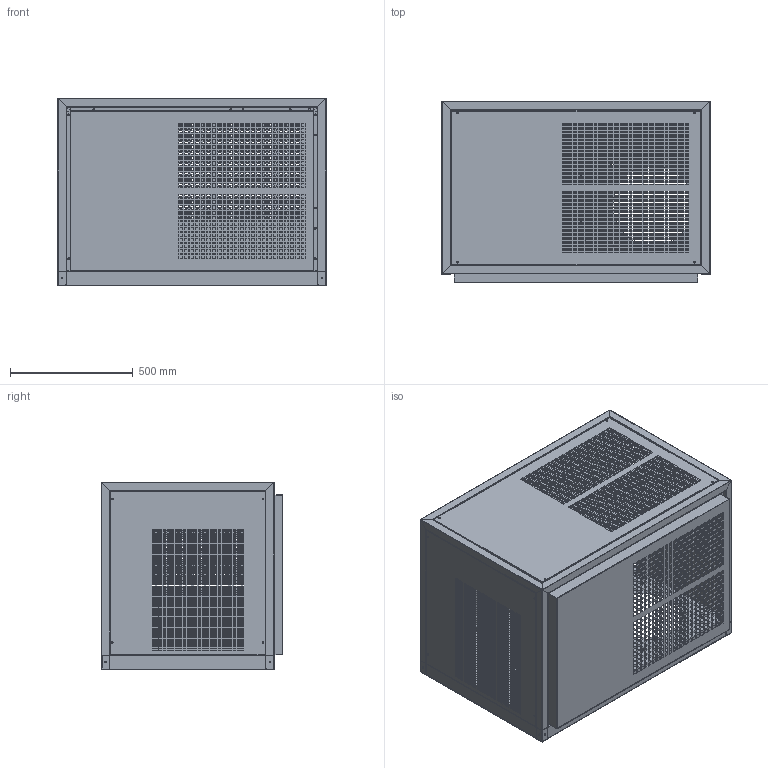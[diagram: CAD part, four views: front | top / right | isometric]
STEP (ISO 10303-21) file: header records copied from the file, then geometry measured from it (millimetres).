
FILE_DESCRIPTION(/* description */ ('Unknown'),/* implementation_level */ '2;1');
FILE_NAME(/* name */ 'SCALA_400',/* time_stamp */ '2018-04-24T07:59:57+02:00',/* author */ ('Unknown'),/* organization */ ('Unknown'),/* preprocessor_version */ 'ST-DEVELOPER v16.7',/* originating_system */ 'DEX',/* authorisation */ $);
FILE_SCHEMA (('CONFIG_CONTROL_DESIGN'));
Products named in the file (18): SCALA_400; SC-13; SC-14; SC-15; SC-21; SC-17; SC-16; SC-19; SC-18; SC-5_oa_0; SC-2+6200; SC-3; SC-29; SC-9; SC-11; SC-31; SC-12; SC-8
Assembly tree (21 placements, depth 3):
  SCALA_400
    SC-13
    SC-14
    SC-15
    SC-21
    SC-17
    SC-16
    SC-19
    SC-18
    SC-5_oa_0
      SC-2+6200
      SC-3
    SC-29
      SC-9  x3
      SC-11  x2
      SC-31
      SC-12  x2
    SC-8
Bounding box: 1092.4 x 738.29 x 760.2 mm (x, y, z)
Volume: 4535234 mm3; surface area: 9525173.7 mm2
Topology: 19 solids, 19 shells, 10508 faces, 31114 edges, 20644 vertices
Faces by surface type: plane 10028, cylinder 400, bspline 80
Full cylindrical faces by diameter (mm): 3.5 x2, 4 x6, 4.134 x10, 4.25 x2, 4.917 x8, 5.5 x2, 6 x62, 6.647 x4, 7 x30, 9 x7, 10 x2, 10.106 x4, 11 x4, 14 x1, 20 x2, 326 x1
Entity records: 348727 total; most frequent: CARTESIAN_POINT 62286, ORIENTED_EDGE 60754, DIRECTION 51385, EDGE_CURVE 30377, LINE 29599, VECTOR 29599, VERTEX_POINT 20240, EDGE_LOOP 15327
